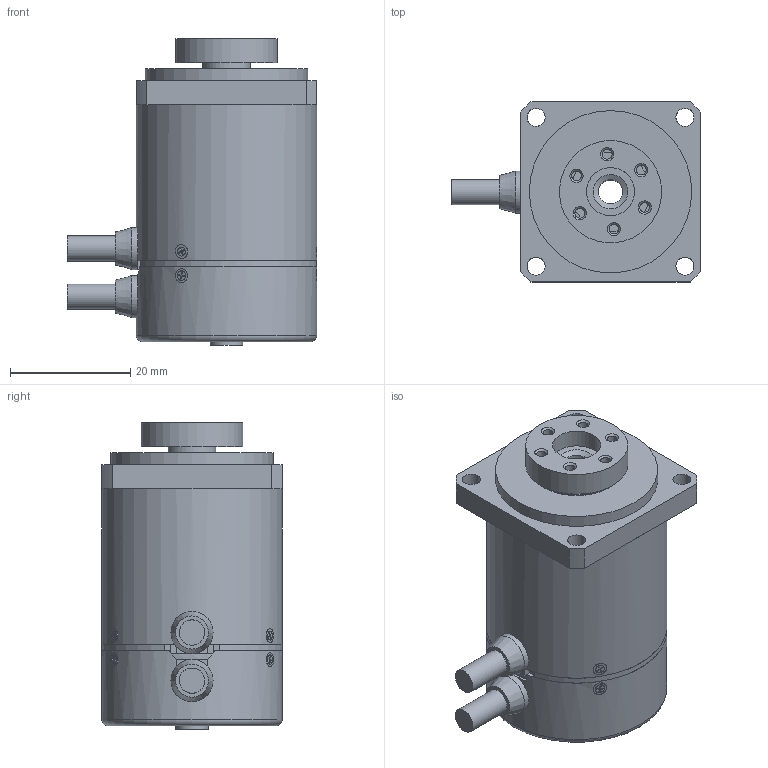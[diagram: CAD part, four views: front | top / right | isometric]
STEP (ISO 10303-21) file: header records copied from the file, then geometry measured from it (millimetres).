
FILE_DESCRIPTION(('STEP AP214'),'1');
FILE_NAME('MDH-3018.stp','2017-10-10T07:14:51',(' '),(' '),'Spatial InterOp 3D',' ',' ');
FILE_SCHEMA(('automotive_design'));
Length unit declared in the file: millimetre
Products named in the file (12): オイルシール; ケーブル; タッピングネジ M1.4x2.2; サラコネジ M1.4x2.5; ｱﾝｷﾞｭﾗﾍﾞｱﾘﾝｸﾞ MTA06-15; ブッシュ; カバー_H; ベース; シャフト_H3018; ケース_3018
Assembly tree (17 placements, depth 2):
  (unnamed)
    オイルシール
    ケーブル  x2
    タッピングネジ M1.4x2.2  x3
    サラコネジ M1.4x2.5  x3
    ｱﾝｷﾞｭﾗﾍﾞｱﾘﾝｸﾞ MTA06-15
    ｱﾝｷﾞｭﾗﾍﾞｱﾘﾝｸﾞ MTA06-15
    ブッシュ  x2
    カバー_H
    ベース
    シャフト_H3018
    ケース_3018
Bounding box: 41.49 x 30 x 51 mm (x, y, z)
Volume: 12187.8 mm3; surface area: 19870.2 mm2
Topology: 19 solids, 19 shells, 420 faces, 975 edges, 630 vertices
Faces by surface type: plane 218, cylinder 138, cone 45, torus 16, bspline 3
Full cylindrical faces by diameter (mm): 1.1 x15, 1.4 x12, 1.5 x3, 1.6 x9, 2.3 x6, 3 x4, 4 x1, 4.2 x4, 5.4 x2, 6 x5, 7 x2, 8 x2, 8.5 x2, 8.6 x6, 9.2 x2, 9.5 x1, 10 x2, 11.8 x2, 12 x1, 12.6 x2, 13 x1, 13.2 x6, 15 x4, 16 x1, 17 x1, 27 x2, 28 x1, 28.2 x1, 28.9 x1, 29 x1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
Entity records: 10915 total; most frequent: CARTESIAN_POINT 2043, DIRECTION 1354, ORIENTED_EDGE 1066, AXIS2_PLACEMENT_3D 560, EDGE_CURVE 533, EDGE_LOOP 485, VERTEX_POINT 409, FACE_OUTER_BOUND 379
